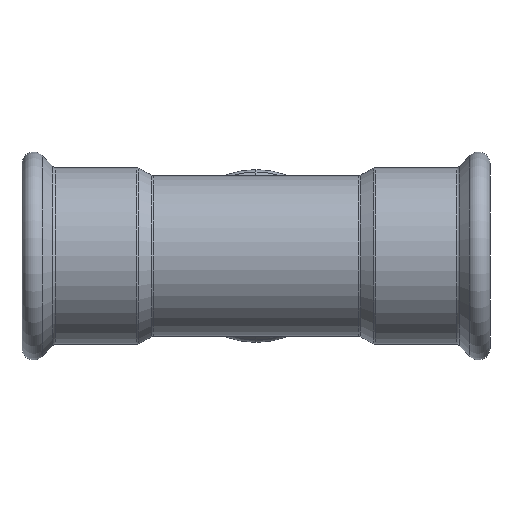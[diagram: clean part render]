
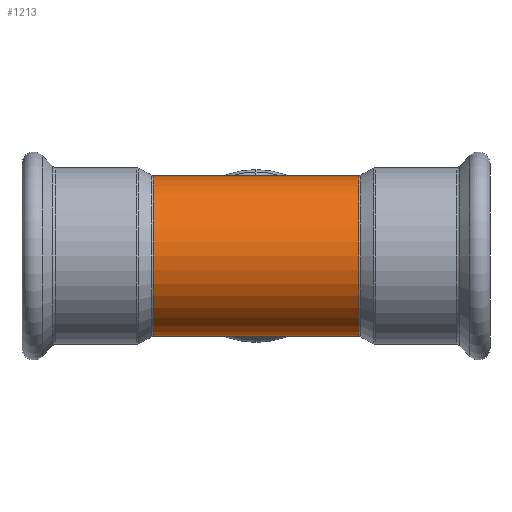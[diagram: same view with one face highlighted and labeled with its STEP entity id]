
A CAD part, front view. The second image highlights one B-rep face of the part: STEP entity #1213.
In plain terms, the highlighted cylindrical face has radius 20.65 mm (diameter 41.3 mm), a partial arc.
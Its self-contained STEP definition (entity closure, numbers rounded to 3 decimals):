
#43 = VERTEX_POINT ( 'NONE', #3202 ) ;
#45 = DIRECTION ( 'NONE',  ( -1., 0., 0. ) ) ;
#197 = ORIENTED_EDGE ( 'NONE', *, *, #3573, .T. ) ;
#323 = VERTEX_POINT ( 'NONE', #1330 ) ;
#329 = CARTESIAN_POINT ( 'NONE',  ( 26.377, 0., 20.65 ) ) ;
#376 = CARTESIAN_POINT ( 'NONE',  ( 26.377, 0., 0. ) ) ;
#613 = VERTEX_POINT ( 'NONE', #2000 ) ;
#614 = DIRECTION ( 'NONE',  ( 1., 0., 0. ) ) ;
#713 = DIRECTION ( 'NONE',  ( -1., 0., 0. ) ) ;
#778 = CIRCLE ( 'NONE', #3244, 20.65 ) ;
#962 = ORIENTED_EDGE ( 'NONE', *, *, #1356, .F. ) ;
#1036 = VECTOR ( 'NONE', #3781, 1000. ) ;
#1213 = ADVANCED_FACE ( 'NONE', ( #2949 ), #3040, .T. ) ;
#1233 = VERTEX_POINT ( 'NONE', #329 ) ;
#1284 = DIRECTION ( 'NONE',  ( 0., 0., 1. ) ) ;
#1330 = CARTESIAN_POINT ( 'NONE',  ( 26.377, 0., -20.65 ) ) ;
#1340 = ORIENTED_EDGE ( 'NONE', *, *, #2476, .T. ) ;
#1356 = EDGE_CURVE ( 'NONE', #323, #43, #3543, .T. ) ;
#1469 = CARTESIAN_POINT ( 'NONE',  ( 0., 0., -20.65 ) ) ;
#1858 = AXIS2_PLACEMENT_3D ( 'NONE', #4062, #713, #2718 ) ;
#2000 = CARTESIAN_POINT ( 'NONE',  ( -26.377, 0., 20.65 ) ) ;
#2272 = VECTOR ( 'NONE', #3603, 1000. ) ;
#2476 = EDGE_CURVE ( 'NONE', #323, #1233, #3222, .T. ) ;
#2698 = DIRECTION ( 'NONE',  ( 0., 0., 1. ) ) ;
#2718 = DIRECTION ( 'NONE',  ( 0., 0., 1. ) ) ;
#2949 = FACE_OUTER_BOUND ( 'NONE', #3243, .T. ) ;
#3010 = AXIS2_PLACEMENT_3D ( 'NONE', #376, #45, #2698 ) ;
#3040 = CYLINDRICAL_SURFACE ( 'NONE', #1858, 20.65 ) ;
#3202 = CARTESIAN_POINT ( 'NONE',  ( -26.377, 0., -20.65 ) ) ;
#3222 = CIRCLE ( 'NONE', #3010, 20.65 ) ;
#3243 = EDGE_LOOP ( 'NONE', ( #962, #1340, #3498, #197 ) ) ;
#3244 = AXIS2_PLACEMENT_3D ( 'NONE', #3289, #614, #1284 ) ;
#3289 = CARTESIAN_POINT ( 'NONE',  ( -26.377, 0., 0. ) ) ;
#3376 = EDGE_CURVE ( 'NONE', #1233, #613, #4289, .T. ) ;
#3498 = ORIENTED_EDGE ( 'NONE', *, *, #3376, .T. ) ;
#3543 = LINE ( 'NONE', #1469, #1036 ) ;
#3573 = EDGE_CURVE ( 'NONE', #613, #43, #778, .T. ) ;
#3603 = DIRECTION ( 'NONE',  ( -1., 0., 0. ) ) ;
#3781 = DIRECTION ( 'NONE',  ( -1., 0., 0. ) ) ;
#4030 = CARTESIAN_POINT ( 'NONE',  ( 0., 0., 20.65 ) ) ;
#4062 = CARTESIAN_POINT ( 'NONE',  ( 0., 0., 0. ) ) ;
#4289 = LINE ( 'NONE', #4030, #2272 ) ;
